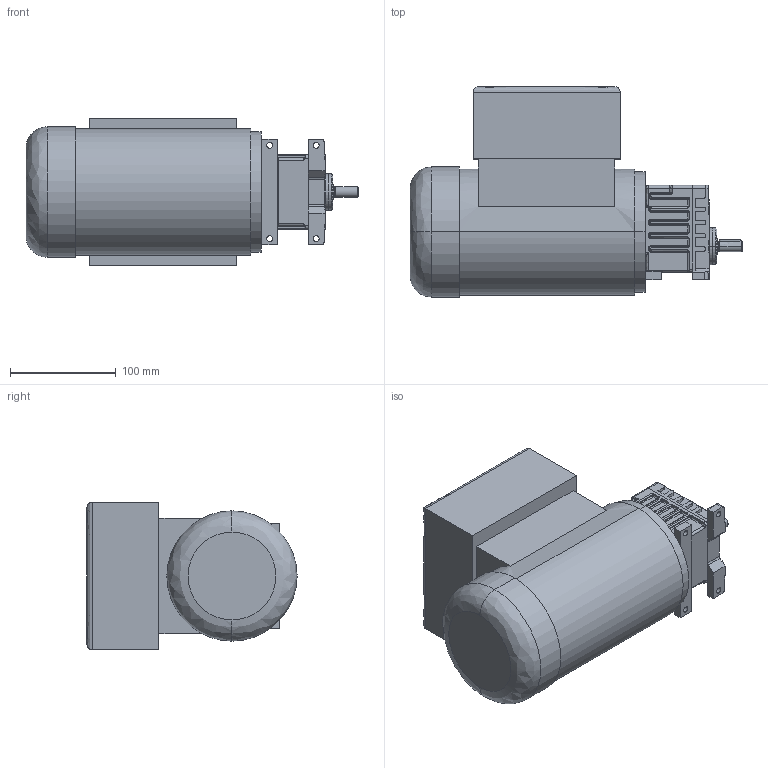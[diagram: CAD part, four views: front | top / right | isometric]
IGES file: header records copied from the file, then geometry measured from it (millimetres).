
Start section: Elysium IGES Interface
Global section: file name: E:\000 CAD\122 G2_Serie\01 Zusammenstellung+U-Satz+Stueckliste\122_013 ...._Getriebe\G23_G27_BF_B3_B14_Motor_Bgr_63_EEXDe_3D.igs; native system: SolidDesigner 15.00B  25-Jun-2007; preprocessor: OneSpace IGES_3D V2.2; author: Unknown; organization: Unknown; date: 20070827.154138; units: millimetre
Bounding box: 313.5 x 198.5 x 139 mm (x, y, z)
Volume: 4406235.2 mm3; surface area: 194007.4 mm2
Topology: 1 solids, 1 shells, 527 faces, 1308 edges, 783 vertices
Faces by surface type: bspline 527
